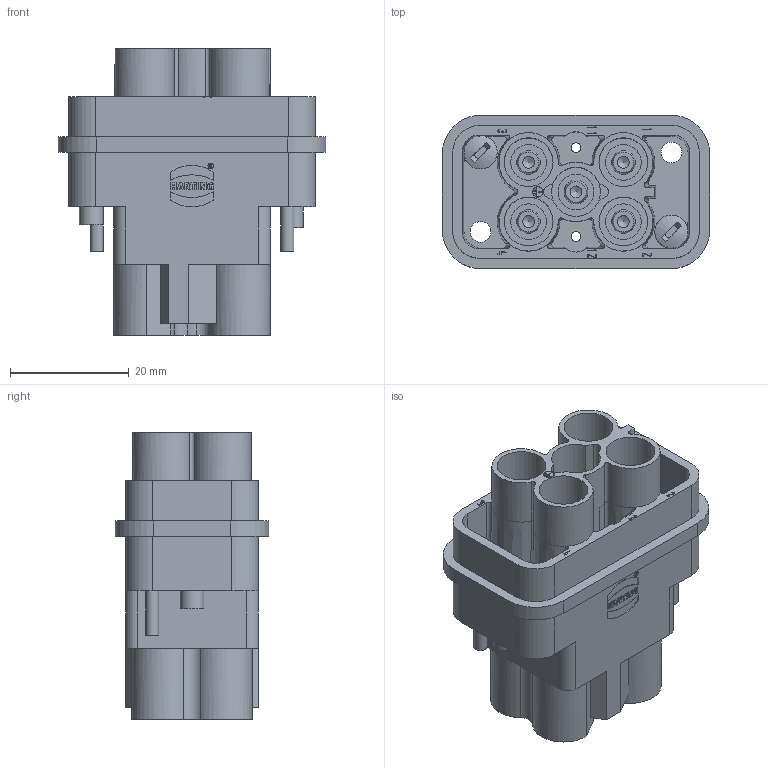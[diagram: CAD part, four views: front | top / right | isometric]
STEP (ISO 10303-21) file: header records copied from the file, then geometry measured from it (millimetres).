
FILE_DESCRIPTION(/* description */ (''),/* implementation_level */ '2;1');
FILE_NAME(/* name */ '100514355ugm000_c.stp',/* time_stamp */ '2022-03-11T17:58:54+01:00',/* author */ (''),/* organization */ (''),/* preprocessor_version */ 'ST-DEVELOPER v16.7',/* originating_system */ 'SIEMENS PLM Software NX 1911',/* authorisation */ '');
FILE_SCHEMA (('AUTOMOTIVE_DESIGN { 1 0 10303 214 3 1 1 1 }'));
Length unit declared in the file: millimetre
Products named in the file (1): 100514355ugm000_c
Bounding box: 45.1 x 25.9 x 48.4 mm (x, y, z)
Volume: 18772.6 mm3; surface area: 17227.4 mm2
Topology: 1 solids, 1 shells, 643 faces, 1897 edges, 1535 vertices
Faces by surface type: plane 356, cylinder 134, extrusion 80, cone 37, bspline 31, sphere 5
Full cylindrical faces by diameter (mm): 0.797 x1, 0.942 x1, 1.65 x2, 1.677 x1, 1.799 x1, 2 x5, 2.2 x2, 3.5 x3, 3.95 x5, 4 x6, 6 x5, 6.2 x5, 7.1 x5, 7.9 x5, 8.25 x4
Entity records: 26329 total; most frequent: CARTESIAN_POINT 5461, ORIENTED_EDGE 3084, DIRECTION 2904, EDGE_CURVE 1542, VECTOR 1154, LINE 1074, VERTEX_POINT 1073, AXIS2_PLACEMENT_3D 875
